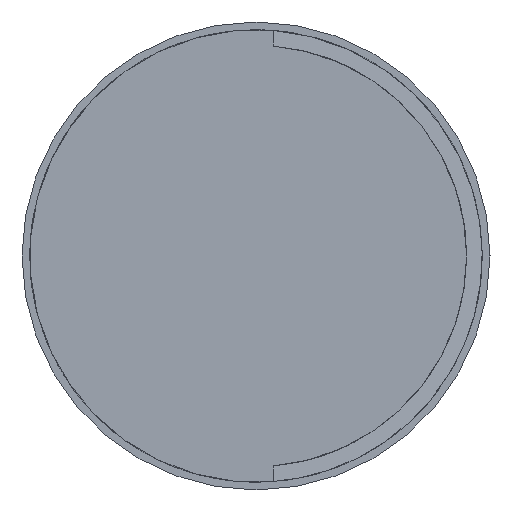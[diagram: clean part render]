
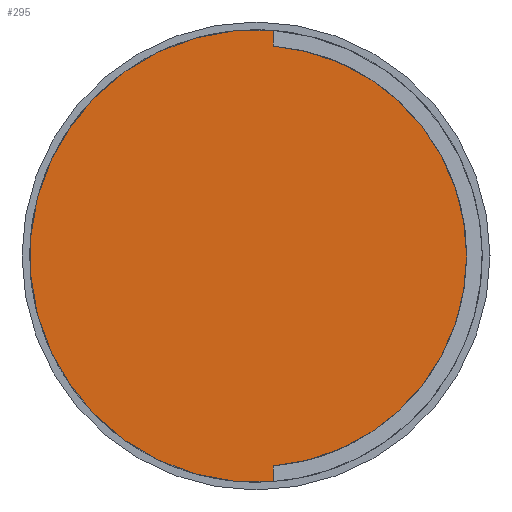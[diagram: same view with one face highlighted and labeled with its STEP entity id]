
A CAD part, left-side view. The second image highlights one B-rep face of the part: STEP entity #295.
In plain terms, the highlighted planar face has unit normal (-1, 0, 0).
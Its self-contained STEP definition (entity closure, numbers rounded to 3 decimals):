
#22=LINE('',#539,#26);
#23=LINE('',#540,#27);
#26=VECTOR('',#459,1000.);
#27=VECTOR('',#460,1000.);
#34=CIRCLE('',#353,2.9);
#35=CIRCLE('',#356,2.7);
#97=ORIENTED_EDGE('',*,*,#129,.F.);
#98=ORIENTED_EDGE('',*,*,#132,.F.);
#99=ORIENTED_EDGE('',*,*,#131,.F.);
#100=ORIENTED_EDGE('',*,*,#133,.F.);
#129=EDGE_CURVE('',#155,#156,#34,.T.);
#131=EDGE_CURVE('',#157,#158,#35,.T.);
#132=EDGE_CURVE('',#158,#155,#22,.T.);
#133=EDGE_CURVE('',#156,#157,#23,.T.);
#155=VERTEX_POINT('',#530);
#156=VERTEX_POINT('',#531);
#157=VERTEX_POINT('',#535);
#158=VERTEX_POINT('',#536);
#217=EDGE_LOOP('',(#97,#98,#99,#100));
#259=FACE_BOUND('',#217,.T.);
#271=PLANE('',#357);
#295=ADVANCED_FACE('',(#259),#271,.F.);
#353=AXIS2_PLACEMENT_3D('',#532,#449,#450);
#356=AXIS2_PLACEMENT_3D('',#537,#455,#456);
#357=AXIS2_PLACEMENT_3D('',#538,#457,#458);
#449=DIRECTION('',(1.,0.,0.));
#450=DIRECTION('',(0.,0.,-1.));
#455=DIRECTION('',(1.,0.,0.));
#456=DIRECTION('',(0.,0.,-1.));
#457=DIRECTION('',(1.,0.,0.));
#458=DIRECTION('',(0.,0.,-1.));
#459=DIRECTION('',(0.,0.,-1.));
#460=DIRECTION('',(0.,0.,-1.));
#530=CARTESIAN_POINT('',(-15.,-0.219,-2.892));
#531=CARTESIAN_POINT('',(-15.,-0.219,2.892));
#532=CARTESIAN_POINT('',(-15.,0.,0.));
#535=CARTESIAN_POINT('',(-15.,-0.219,2.691));
#536=CARTESIAN_POINT('',(-15.,-0.219,-2.691));
#537=CARTESIAN_POINT('',(-15.,0.,0.));
#538=CARTESIAN_POINT('',(-15.,0.,0.));
#539=CARTESIAN_POINT('',(-15.,-0.219,2.9));
#540=CARTESIAN_POINT('',(-15.,-0.219,2.9));
